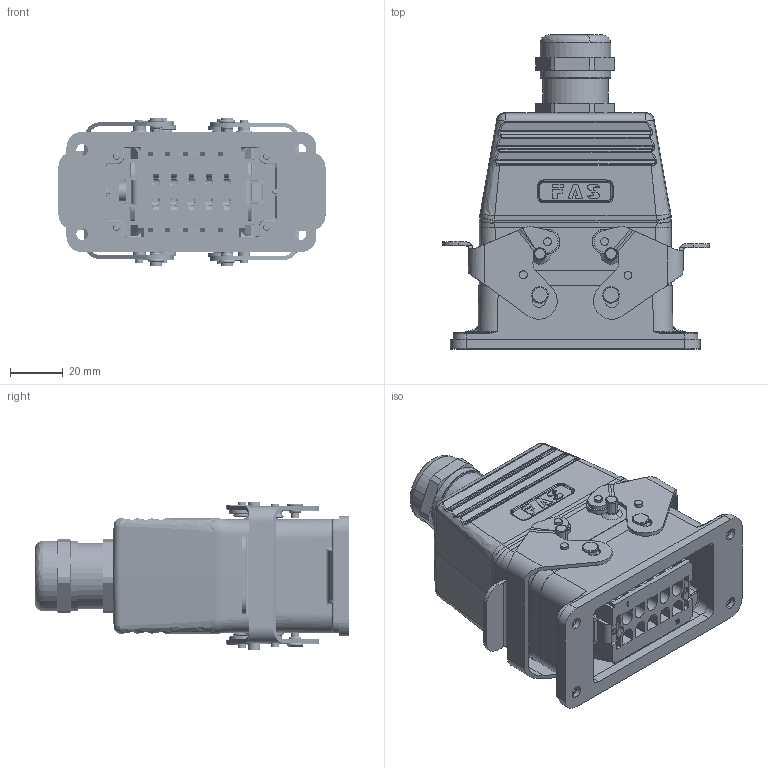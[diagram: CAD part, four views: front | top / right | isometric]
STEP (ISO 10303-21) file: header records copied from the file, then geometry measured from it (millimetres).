
FILE_DESCRIPTION (( 'STEP AP214' ), '1' );
FILE_NAME ('09010102120P HE、10针、开孔底座、顶出20套件、配塑料接头.STEP', '2024-04-26T06:41:06', ( 'L' ), ( '' ), 'SwSTEP 2.0', 'SolidWorks 2019', '' );
FILE_SCHEMA (( 'AUTOMOTIVE_DESIGN' ));
Length unit declared in the file: millimetre
Products named in the file (6): FAS-20-P.step; HE-010-M.stp; 09010102120P HE、10针、开孔底座、顶出20套件、配塑料接头; H10B-AG.step; HE-010-F.stp; H10B-TG-M20.step
Assembly tree (5 placements, depth 2):
  09010102120P HE、10针、开孔底座、顶出20套件、配塑料接头
    H10B-AG.step
    HE-010-F.stp
    HE-010-M.stp
    H10B-TG-M20.step
    FAS-20-P.step
Bounding box: 101.51 x 119.3 x 56.4 mm (x, y, z)
Volume: 170127.4 mm3; surface area: 106909.1 mm2
Topology: 5 solids, 18 shells, 5050 faces, 13494 edges, 8478 vertices
Faces by surface type: plane 2282, cylinder 1123, bspline 962, cone 461, torus 186, sphere 36
Entity records: 212881 total; most frequent: CARTESIAN_POINT 82148, ORIENTED_EDGE 26732, DIRECTION 21609, EDGE_CURVE 13366, VERTEX_POINT 8454, AXIS2_PLACEMENT_3D 7237, VECTOR 7135, LINE 7135
